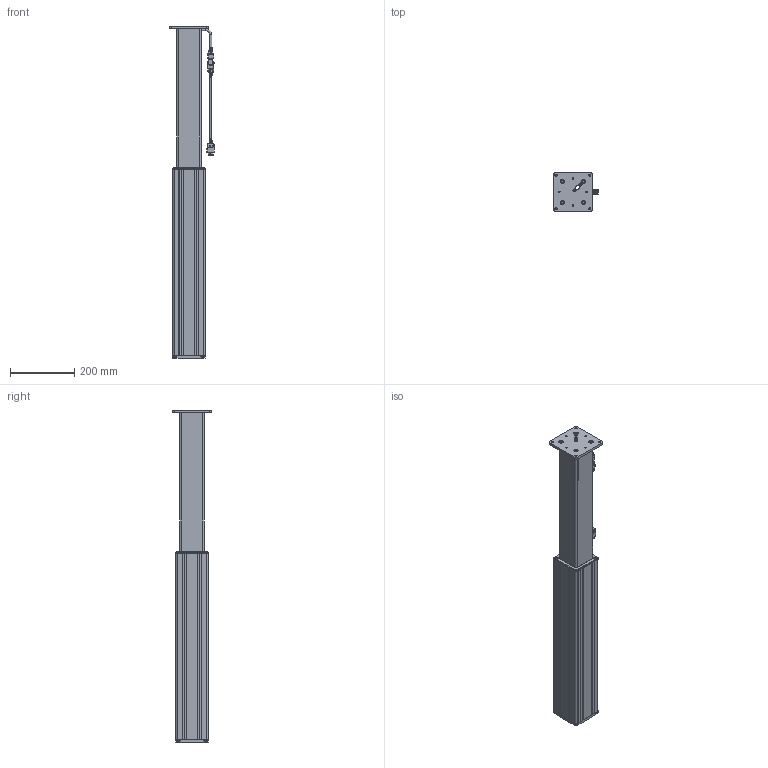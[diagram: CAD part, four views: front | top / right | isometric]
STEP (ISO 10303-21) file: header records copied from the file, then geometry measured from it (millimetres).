
FILE_DESCRIPTION(/* description */ ('Unknown'),/* implementation_level */ '2;1');
FILE_NAME(/* name */ '912.00004_01-ausgefahren',/* time_stamp */ '2024-04-08T10:42:05+02:00',/* author */ ('Unknown'),/* organization */ ('Unknown'),/* preprocessor_version */ 'ST-DEVELOPER v18.104',/* originating_system */ 'Solid Edge',/* authorisation */ 'Unknown');
FILE_SCHEMA (('AUTOMOTIVE_DESIGN {1 0 10303 214 3 1 1}'));
Length unit declared in the file: millimetre
Products named in the file (13): 912.00004; 126.00196; 119.00582; 128.00077; 119.00581; 126.00197; 124.00201_oa_0; 124.00151; 142.00303; 142.00241; 142.00154; 142.00039; Kabel Motor Sx
Assembly tree (23 placements, depth 2):
  912.00004
    126.00196
    119.00582  x4
    128.00077
    119.00581
    126.00197
    124.00201_oa_0
    124.00151
    142.00303  x4
    142.00241  x2
    142.00154  x4
    142.00039  x2
    Kabel Motor Sx
Bounding box: 139.17 x 120 x 1030 mm (x, y, z)
Volume: 2152712.3 mm3; surface area: 1362576.1 mm2
Topology: 22 solids, 22 shells, 1787 faces, 4699 edges, 3081 vertices
Faces by surface type: plane 1094, cylinder 479, torus 109, bspline 72, cone 27, sphere 6
Full cylindrical faces by diameter (mm): 1.5 x6, 1.82 x6, 2 x4, 2.7 x6, 4 x2, 4.917 x4, 5 x3, 5.2 x8, 5.5 x2, 6 x11, 6.2 x4, 6.5 x4, 6.6 x4, 6.647 x4, 7 x2, 8.376 x1, 10 x2, 12 x4, 21 x1
Entity records: 56537 total; most frequent: CARTESIAN_POINT 11415, ORIENTED_EDGE 7522, DIRECTION 7477, EDGE_CURVE 3761, AXIS2_PLACEMENT_3D 2544, VERTEX_POINT 2522, LINE 2389, VECTOR 2389
